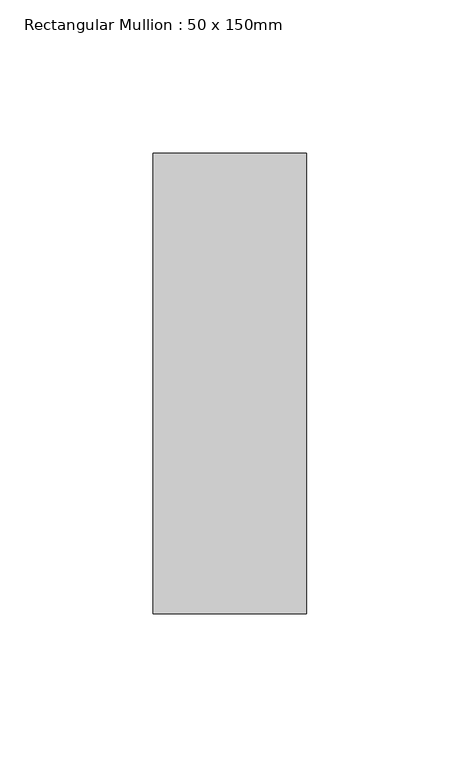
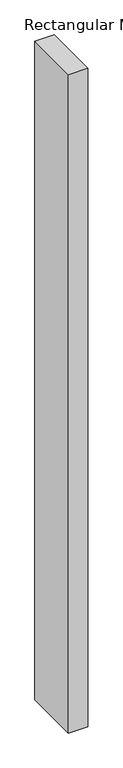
"""IFC4 building model written with IfcOpenShell, lengths in millimetres: member geometry, Rectangular Mullion : 50 x 150mm."""

import ifcopenshell
import ifcopenshell.guid

model = None  # the IFC model being written
_history = None  # IfcOwnerHistory: only IFC2X3 demands one
_inside = {}  # id of a spatial element -> (the spatial element, [elements in it])
_under = {}  # id of a project, library or spatial element -> (it, [spatial elements below it])
_declared = {}  # id of a project -> (the project, [libraries it declares])
_typed = {}  # id of a type object -> (the type object, [elements of that type])
_made_of = {}  # id of a material, layer set ... -> (it, [elements and type objects made of it])


def new_model(schema):
    """Start an empty IFC model of exactly this schema.

    Asked for "IFC4X3", IfcOpenShell would pick the latest addendum, in which some entities
    have other attributes; the version numbers below select the first issue.
    IFC2X3 requires an IfcOwnerHistory on every rooted entity: one is made here for all.
    """
    global model, _history
    if schema == "IFC4X3":
        model = ifcopenshell.file(schema_version=(4, 3, 0, 0))
    else:
        model = ifcopenshell.file(schema=schema)
    _inside.clear()
    _under.clear()
    _declared.clear()
    _typed.clear()
    _made_of.clear()
    _history = None
    if model.schema == "IFC2X3":
        org = make("IfcOrganization", Name="unknown")
        user = make(
            "IfcPersonAndOrganization",
            ThePerson=make("IfcPerson", FamilyName="unknown"),
            TheOrganization=org,
        )
        app = make(
            "IfcApplication",
            ApplicationDeveloper=org,
            Version="unknown",
            ApplicationFullName="unknown",
            ApplicationIdentifier="unknown",
        )
        _history = make(
            "IfcOwnerHistory",
            OwningUser=user,
            OwningApplication=app,
            ChangeAction="ADDED",
            CreationDate=0,
        )
    return model


def make(cls, **values):
    """One entity of the class cls with the attributes given. An attribute that is None is left unset."""
    return model.create_entity(
        cls, **{name: value for name, value in values.items() if value is not None}
    )


def rooted(cls, **values):
    """An entity with a GlobalId (a new one), such as an element, a storey or a relation."""
    return make(cls, GlobalId=ifcopenshell.guid.new(), OwnerHistory=_history, **values)


def si_unit(unit_type, name, prefix=None):
    """IfcSIUnit, for example si_unit("LENGTHUNIT", "METRE", prefix="MILLI")."""
    return make("IfcSIUnit", UnitType=unit_type, Prefix=prefix, Name=name)


def assignment(units):
    """IfcUnitAssignment: the units of a project."""
    return None if units is None else make("IfcUnitAssignment", Units=units)


def point(xyz):
    """IfcCartesianPoint."""
    return None if xyz is None else make("IfcCartesianPoint", Coordinates=xyz)


def direction(xyz):
    """IfcDirection."""
    return None if xyz is None else make("IfcDirection", DirectionRatios=xyz)


def frame(location, z_axis=None, x_axis=None):
    """IfcAxis2Placement3D, a coordinate frame: its origin and axes. An axis left out is left unset."""
    return make(
        "IfcAxis2Placement3D",
        Location=point(location),
        Axis=direction(z_axis),
        RefDirection=direction(x_axis),
    )


def origin():
    """The frame at (0, 0, 0) with its axes left unset."""
    return frame((0.0, 0.0, 0.0))


def place(relative_to, where):
    """IfcLocalPlacement: puts the frame where relative to a parent placement (None: the world)."""
    return make(
        "IfcLocalPlacement", PlacementRelTo=relative_to, RelativePlacement=where
    )


def context(
    kind, dimensions, precision=None, world=None, true_north=None, identifier=None
):
    """IfcGeometricRepresentationContext, for example the 3D "Model" context."""
    return make(
        "IfcGeometricRepresentationContext",
        ContextIdentifier=identifier,
        ContextType=kind,
        CoordinateSpaceDimension=dimensions,
        Precision=precision,
        WorldCoordinateSystem=world,
        TrueNorth=true_north,
    )


def project(units=None, contexts=None):
    """IfcProject with its units and contexts."""
    return rooted(
        "IfcProject",
        Name="project",
        RepresentationContexts=contexts,
        UnitsInContext=assignment(units),
    )


def spatial(cls, under=None, at=None, **own):
    """A site, building, storey or space (cls), placed at a placement, below another one or the project."""
    s = rooted(cls, ObjectPlacement=at, **own)
    if under is not None:
        _under.setdefault(under.id(), (under, []))[1].append(s)
    return s


def polyline(points):
    """IfcPolyline through the points."""
    return make("IfcPolyline", Points=[point(p) for p in points])


def outline(outer, holes=None, kind="AREA"):
    """IfcArbitraryClosedProfileDef: a profile drawn as a closed curve; with holes, ...WithVoids."""
    if holes is None:
        return make("IfcArbitraryClosedProfileDef", ProfileType=kind, OuterCurve=outer)
    return make(
        "IfcArbitraryProfileDefWithVoids",
        ProfileType=kind,
        OuterCurve=outer,
        InnerCurves=holes,
    )


def extrude(swept, where, along, depth):
    """IfcExtrudedAreaSolid: the profile swept, set in the frame where, extruded along a direction by depth."""
    return make(
        "IfcExtrudedAreaSolid",
        SweptArea=swept,
        Position=where,
        ExtrudedDirection=direction(along),
        Depth=depth,
    )


def shape(context_of_items, identifier, shape_type, items):
    """IfcShapeRepresentation: the items that make up one representation, for example the "Body"."""
    return make(
        "IfcShapeRepresentation",
        ContextOfItems=context_of_items,
        RepresentationIdentifier=identifier,
        RepresentationType=shape_type,
        Items=items,
    )


def source(mapping_origin, context_of_items, identifier, shape_type, items):
    """IfcRepresentationMap: a shape defined once, which mapped items show again and again."""
    return make(
        "IfcRepresentationMap",
        MappingOrigin=mapping_origin,
        MappedRepresentation=shape(context_of_items, identifier, shape_type, items),
    )


def transform(
    local_origin,
    x_axis=None,
    y_axis=None,
    z_axis=None,
    scale=None,
    scale2=None,
    scale3=None,
    uniform=True,
):
    """IfcCartesianTransformationOperator3D, or its non-uniform kind. x_axis, y_axis, z_axis: its Axis1, 2, 3."""
    if uniform:
        return make(
            "IfcCartesianTransformationOperator3D",
            Axis1=direction(x_axis),
            Axis2=direction(y_axis),
            LocalOrigin=point(local_origin),
            Scale=scale,
            Axis3=direction(z_axis),
        )
    return make(
        "IfcCartesianTransformationOperator3DnonUniform",
        Axis1=direction(x_axis),
        Axis2=direction(y_axis),
        LocalOrigin=point(local_origin),
        Scale=scale,
        Axis3=direction(z_axis),
        Scale2=scale2,
        Scale3=scale3,
    )


def mapped(mapping_source, mapping_target):
    """IfcMappedItem: shows the shape of a source again, moved by a transform."""
    return make(
        "IfcMappedItem", MappingSource=mapping_source, MappingTarget=mapping_target
    )


def made_of(thing, what):
    """Note that an element or type object is made of a material, layer set ...; save() writes the relation."""
    if what is not None:
        _made_of.setdefault(what.id(), (what, []))[1].append(thing)
    return thing


def element(
    cls,
    number,
    at=None,
    inside=None,
    cuts=None,
    type_object=None,
    material=None,
    context=None,
    identifier="Body",
    shape_type=None,
    held_by="IfcProductDefinitionShape",
    body=None,
    shapes=None,
    **own,
):
    """One element of the class cls, such as IfcWall. Its Tag is "e" and its number.

    at: its placement. inside: the storey or other place that contains it. cuts: it is an
    opening in that element (IfcRelVoidsElement). A single representation is given by context,
    identifier, shape_type and body (its items); several are given by shapes. held_by: the class
    of the entity that holds the representations. save() writes the other relations.
    """
    e = rooted(cls, Tag="e%d" % number, ObjectPlacement=at, **own)
    if body is not None:
        shapes = [shape(context, identifier, shape_type, body)]
    if shapes is not None:
        e.Representation = make(held_by, Representations=shapes)
    if inside is not None:
        _inside.setdefault(inside.id(), (inside, []))[1].append(e)
    if cuts is not None:
        rooted(
            "IfcRelVoidsElement", RelatingBuildingElement=cuts, RelatedOpeningElement=e
        )
    if type_object is not None:
        _typed.setdefault(type_object.id(), (type_object, []))[1].append(e)
    return made_of(e, material)


def aggregate(whole, parts):
    """IfcRelAggregates: a whole, such as a stair, and the parts it consists of."""
    return rooted("IfcRelAggregates", RelatingObject=whole, RelatedObjects=parts)


def save(model, path):
    """Write the relations noted so far, then the file.

    IfcRelAggregates (storeys below a building ...), IfcRelContainedInSpatialStructure (elements
    in a storey), IfcRelDefinesByType, IfcRelAssociatesMaterial and IfcRelDeclares: one each for
    every whole, place, type object, material and project.
    """
    for whole, parts in _under.values():
        aggregate(whole, parts)
    for where, things in _inside.values():
        rooted(
            "IfcRelContainedInSpatialStructure",
            RelatedElements=things,
            RelatingStructure=where,
        )
    for kind, things in _typed.values():
        rooted("IfcRelDefinesByType", RelatedObjects=things, RelatingType=kind)
    for what, things in _made_of.values():
        rooted("IfcRelAssociatesMaterial", RelatedObjects=things, RelatingMaterial=what)
    for by, libraries in _declared.values():
        rooted("IfcRelDeclares", RelatingContext=by, RelatedDefinitions=libraries)
    model.write(path)


def rectangular_mullion_50_x_150mm_b9dc4b0d(model_context):
    return source(origin(), model_context, "Body", "SweptSolid", [
        extrude(outline(polyline([(0.0, 0.0), (0.1241407, -50.0), (-1801.2388119, -50.0), (-1801.079532, 0.0), (0.0, 0.0)])), frame((0.0, -75.0, 0.0), z_axis=(0.0, 1.0, 0.0), x_axis=(0.0, 0.0, 1.0)), (0.0, 0.0, 1.0), 150.0),
    ])


if __name__ == "__main__":
    model = new_model("IFC4")
    model_context = context("Model", 3, world=origin())
    ifc_project = project(units=[si_unit("LENGTHUNIT", "METRE", prefix="MILLI")], contexts=[model_context])
    site = spatial("IfcSite", under=ifc_project)
    building = spatial("IfcBuilding", under=site)
    placement = place(None, origin())
    rectangular_mullion_50_x_150mm_shape = rectangular_mullion_50_x_150mm_b9dc4b0d(model_context)
    element("IfcMember", 1, ObjectType="Rectangular Mullion : 50 x 150mm", at=placement, inside=building, context=model_context, shape_type="MappedRepresentation", body=[
        mapped(rectangular_mullion_50_x_150mm_shape, transform((0.0, 0.0, 0.0), x_axis=(1.0, 0.0, 0.0), y_axis=(0.0, 1.0, 0.0), z_axis=(0.0, 0.0, 1.0))),
    ])
    save(model, "model.ifc")
